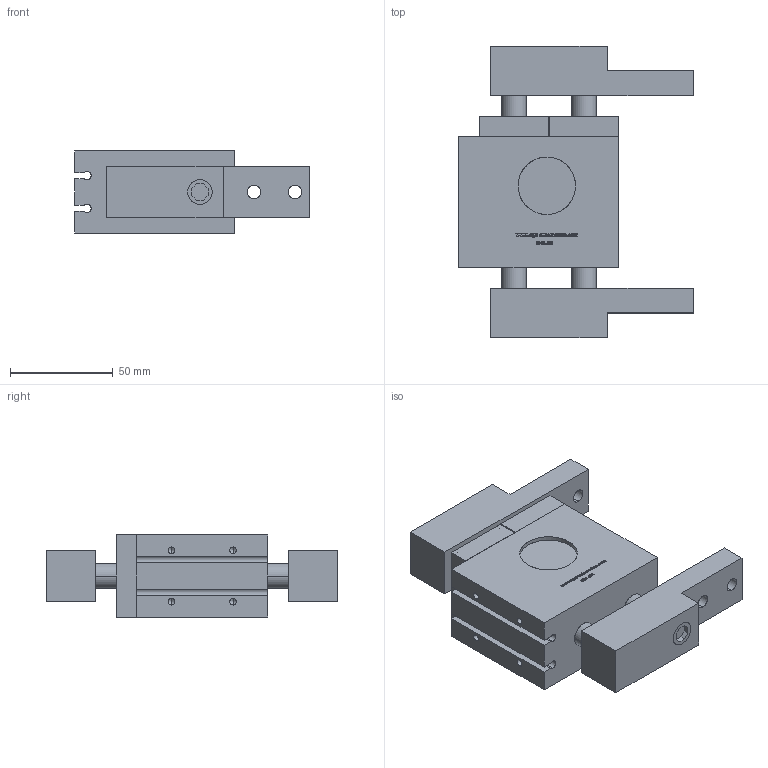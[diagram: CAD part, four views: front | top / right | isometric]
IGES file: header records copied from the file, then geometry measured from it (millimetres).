
Start section: SolidWorks IGES file using analytic representation for surfaces
Global section: file name: H:\GDL.32\GDL.32open.IGS; native system: SolidWorks 2010; preprocessor: SolidWorks 2010; author: SGA; date: 111107.105541; units: millimetre
Bounding box: 114.44 x 142 x 40 mm (x, y, z)
Surface area: 70034.8 mm2 (no closed solid volume)
Topology: 0 solids, 0 shells, 570 faces, 6963 edges, 6951 vertices
Faces by surface type: bspline 492, revolution 78
